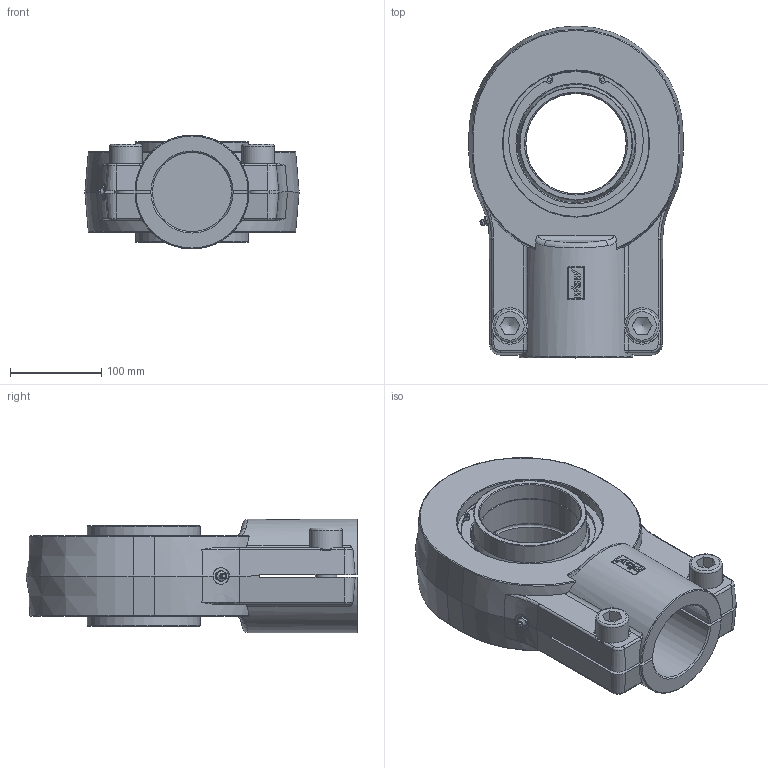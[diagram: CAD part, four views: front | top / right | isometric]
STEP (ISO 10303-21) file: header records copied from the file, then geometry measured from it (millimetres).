
FILE_DESCRIPTION((''),'2;1');
FILE_NAME('H:\WSW\Hydraulikgelenkköpfe\Aktuelle GK Zeichnungen andere Formate\WAPR..CE\WAPR..CE .STP\K-WAPR110CE.stp','2007-12-21T10:45:41',('oliver.joswig'),(''),'Autodesk Inventor 2008','Autodesk Inventor 2008','');
FILE_SCHEMA(('AUTOMOTIVE_DESIGN { 1 0 10303 214 1 1 1 1 }'));
Length unit declared in the file: millimetre
Products named in the file (8): K-WAPR110CE; F-WAPR110CE; GEEW110ES; GEEW_ES_AR mit Nut [Benennung=AR_GEEW110ES][Kugel_dk=70mm][Breite=55mm][Radius_r1s=1mm][Aussendurchmessser=80mm]; GEEW_ES_IR mit Nut [Benennung=IR110LO][Breite=110 mm][Kugel=70 mm][Bund_D=62 mm][Freid_b=19,4 mm][Freid_D=55,5 mm][Bohr=55 mm][Fase=45 grd][R_rs=1 mm]; DIN 472 160 x 4; DIN 71412  A  (Feingewinde) AM10 x 1 keg kurz; DIN EN ISO 4762  (Regelgewinde) M24 x 60
Assembly tree (9 placements, depth 3):
  K-WAPR110CE
    F-WAPR110CE
    GEEW110ES
      GEEW_ES_AR mit Nut [Benennung=AR_GEEW110ES][Kugel_dk=70mm][Breite=55mm][Radius_r1s=1mm][Aussendurchmessser=80mm]
      GEEW_ES_IR mit Nut [Benennung=IR110LO][Breite=110 mm][Kugel=70 mm][Bund_D=62 mm][Freid_b=19,4 mm][Freid_D=55,5 mm][Bohr=55 mm][Fase=45 grd][R_rs=1 mm]
    DIN 472 160 x 4  x2
    DIN 71412  A  (Feingewinde) AM10 x 1 keg kurz
    DIN EN ISO 4762  (Regelgewinde) M24 x 60  x2
Bounding box: 235 x 364 x 125 mm (x, y, z)
Volume: 4400355.5 mm3; surface area: 497309.7 mm2
Topology: 8 solids, 8 shells, 299 faces, 737 edges, 463 vertices
Faces by surface type: plane 115, cylinder 74, bspline 43, cone 42, torus 22, sphere 3
Full cylindrical faces by diameter (mm): 4 x4, 5 x1, 5.052 x2, 8.262 x2, 10 x1, 24 x2, 36 x2, 91 x1, 110 x2, 111 x2, 124 x2, 160 x5, 165 x2
Entity records: 10916 total; most frequent: CARTESIAN_POINT 4750, ORIENTED_EDGE 1200, DIRECTION 1194, EDGE_CURVE 600, AXIS2_PLACEMENT_3D 477, VERTEX_POINT 408, EDGE_LOOP 370, FACE_OUTER_BOUND 273
